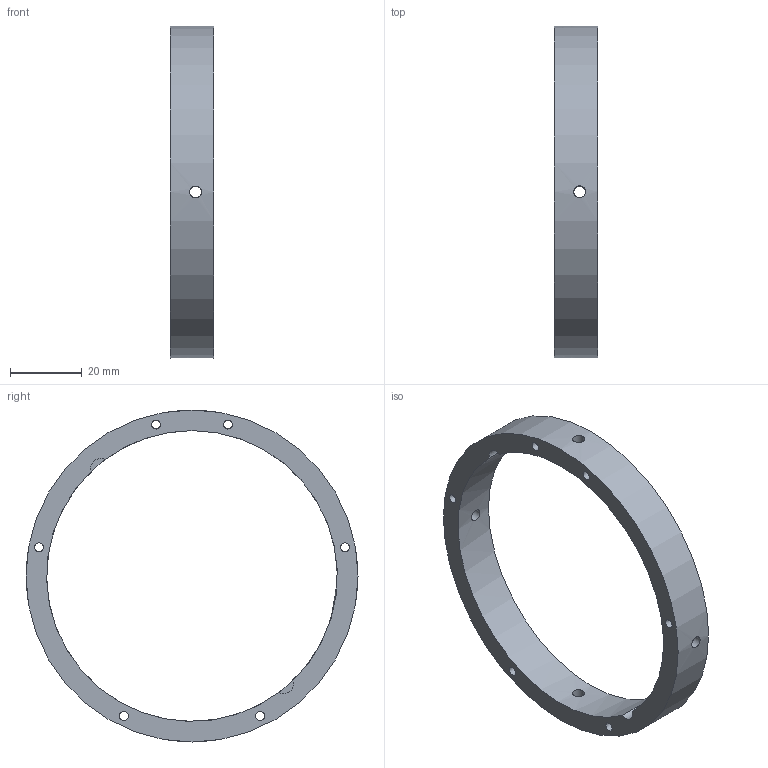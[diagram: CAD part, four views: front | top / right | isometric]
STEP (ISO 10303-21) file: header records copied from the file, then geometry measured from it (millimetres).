
FILE_DESCRIPTION(('Open CASCADE Model'),'2;1');
FILE_NAME('Open CASCADE Shape Model','2026-11-20T22:44:43',('Author'),( 'Open CASCADE'),'Open CASCADE STEP processor 7.8','Open CASCADE 7.8' ,'Unknown');
FILE_SCHEMA(('AUTOMOTIVE_DESIGN { 1 0 10303 214 1 1 1 1 }'));
Length unit declared in the file: millimetre
Products named in the file (1): Open CASCADE STEP translator 7.8 4
Bounding box: 12 x 92.5 x 92.5 mm (x, y, z)
Volume: 18183.3 mm3; surface area: 10368.1 mm2
Topology: 1 solids, 1 shells, 23 faces, 65 edges, 42 vertices
Faces by surface type: cylinder 19, plane 4
Full cylindrical faces by diameter (mm): 2.5 x6, 3.3 x8, 81 x1, 92.5 x1
Entity records: 2766 total; most frequent: CARTESIAN_POINT 1443, DIRECTION 237, ORIENTED_EDGE 130, PCURVE 130, DEFINITIONAL_REPRESENTATION 130, LINE 103, VECTOR 103, EDGE_CURVE 65
